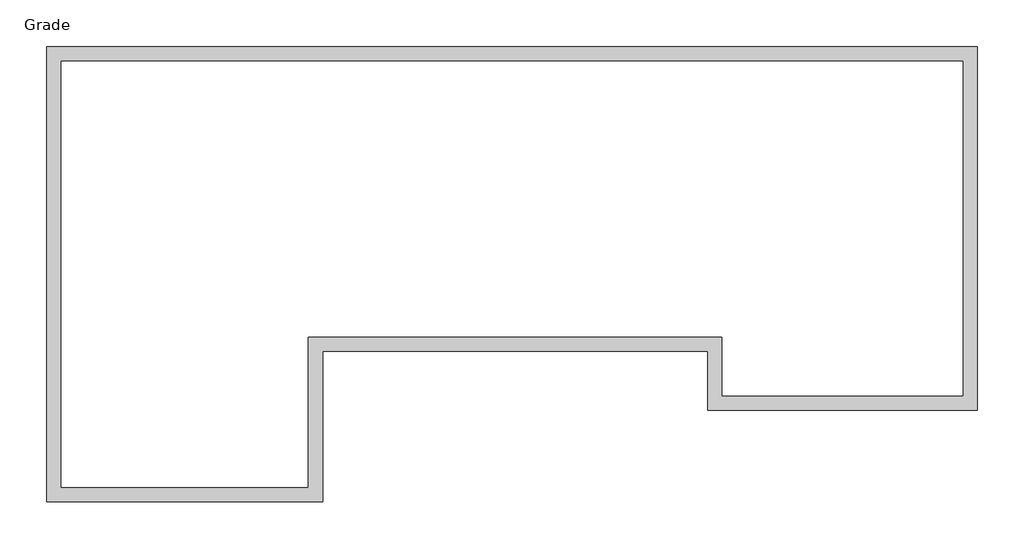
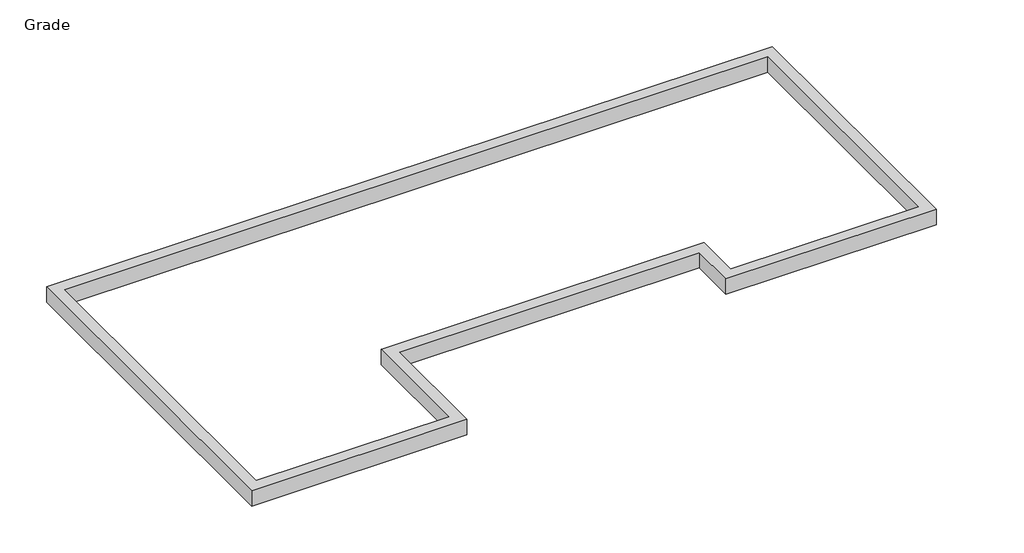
# One storey: 1 proxy.
"""IFC4 building model written with IfcOpenShell, lengths in millimetres."""

from ifc_helpers import new_model, si_unit, origin, place, context, project, spatial, faceted_brep, element, save

model = new_model("IFC4")

# Units and contexts
model_context = context("Model", 3, world=origin())
ifc_project = project(units=[si_unit("LENGTHUNIT", "METRE", prefix="MILLI")], contexts=[model_context])

# Site, building, storey
site = spatial("IfcSite", under=ifc_project)
building = spatial("IfcBuilding", under=site)
storey = spatial("IfcBuildingStorey", under=building, Name="Grade", Elevation=-355.6)

# Proxy
placement = place(None, origin())
element("IfcBuildingElementProxy", 1, Name="New", ObjectType="New", at=placement, inside=storey, context=model_context, shape_type="Brep", body=[
    faceted_brep([(26041.6766981, 14523.4983297, -609.6), (3425.5166981, 14523.4983297, -609.6), (3425.5166981, 14523.4983297, -101.6), (26041.6766981, 14523.4983297, -101.6), (3781.1166981, 14167.8983297, -609.6), (25686.0766981, 14167.8983297, -609.6), (25686.0766981, 14167.8983297, -101.6), (3781.1166981, 14167.8983297, -101.6), (3425.5166981, 3459.2583297, -101.6), (10131.1166981, 3459.2583297, -101.6), (10131.1166981, 7116.8583297, -101.6), (19488.4766981, 7116.8583297, -101.6), (19488.4766981, 5684.2983297, -101.6), (26041.6766981, 5684.2983297, -101.6), (25686.0766981, 6039.8983297, -101.6), (19844.0766981, 6039.8983297, -101.6), (19844.0766981, 7472.4583297, -101.6), (9775.5166981, 7472.4583297, -101.6), (9775.5166981, 3814.8583297, -101.6), (3781.1166981, 3814.8583297, -101.6), (3425.5166981, 3459.2583297, -609.6), (3781.1166981, 3814.8583297, -609.6), (10131.1166981, 3459.2583297, -609.6), (9775.5166981, 3814.8583297, -609.6), (10131.1166981, 7116.8583297, -609.6), (9775.5166981, 7472.4583297, -609.6), (19488.4766981, 7116.8583297, -609.6), (19844.0766981, 7472.4583297, -609.6), (19488.4766981, 5684.2983297, -609.6), (19844.0766981, 6039.8983297, -609.6), (26041.6766981, 5684.2983297, -609.6), (25686.0766981, 6039.8983297, -609.6)], [[[0, 1, 2, 3]], [[4, 5, 6, 7]], [[0, 5, 4, 1]], [[3, 2, 8, 9, 10, 11, 12, 13], [7, 6, 14, 15, 16, 17, 18, 19]], [[1, 20, 8, 2]], [[21, 4, 7, 19]], [[1, 4, 21, 20]], [[20, 22, 9, 8]], [[23, 21, 19, 18]], [[20, 21, 23, 22]], [[22, 24, 10, 9]], [[25, 23, 18, 17]], [[22, 23, 25, 24]], [[24, 26, 11, 10]], [[27, 25, 17, 16]], [[24, 25, 27, 26]], [[26, 28, 12, 11]], [[29, 27, 16, 15]], [[26, 27, 29, 28]], [[28, 30, 13, 12]], [[31, 29, 15, 14]], [[28, 29, 31, 30]], [[30, 0, 3, 13]], [[5, 31, 14, 6]], [[5, 0, 30, 31]]]),
])

save(model, "model.ifc")
